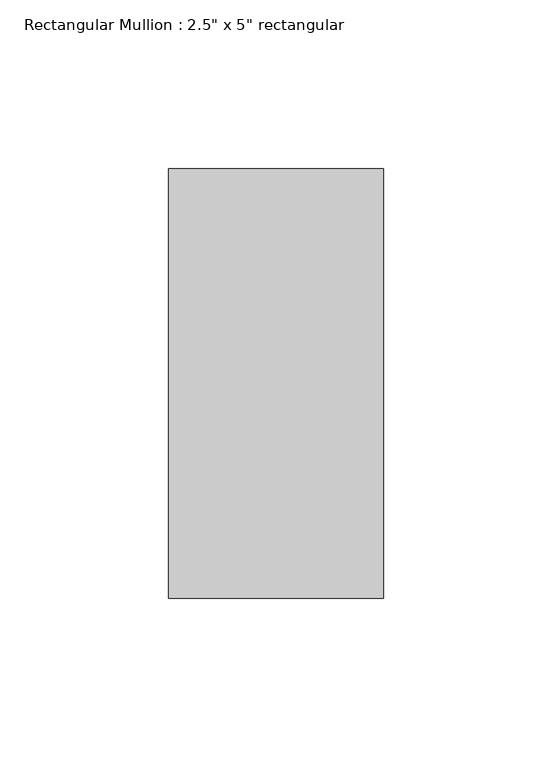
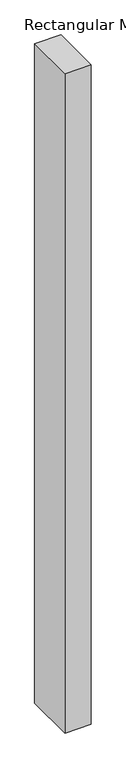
"""IFC4 building model written with IfcOpenShell, lengths in millimetres: member geometry."""

from ifc_helpers import new_model, si_unit, frame, origin, place, context, project, spatial, polyline, outline, extrude, source, transform, mapped, element, save


def member_515a5600(model_context):
    return source(origin(), model_context, "Body", "SweptSolid", [
        extrude(outline(polyline([(0.0, 63.5), (0.0, -63.5), (-63.5, -63.5), (-63.5, 63.5), (0.0, 63.5)])), frame((0.0, 0.0, -1695.45), z_axis=(0.0, 0.0, 1.0), x_axis=(1.0, 0.0, 0.0)), (0.0, 0.0, 1.0), 1695.45),
    ])


if __name__ == "__main__":
    model = new_model("IFC4")
    model_context = context("Model", 3, world=origin())
    ifc_project = project(units=[si_unit("LENGTHUNIT", "METRE", prefix="MILLI")], contexts=[model_context])
    site = spatial("IfcSite", under=ifc_project)
    building = spatial("IfcBuilding", under=site)
    placement = place(None, origin())
    member_shape = member_515a5600(model_context)
    element("IfcMember", 1, ObjectType="Rectangular Mullion : 2.5\" x 5\" rectangular", at=placement, inside=building, context=model_context, shape_type="MappedRepresentation", body=[
        mapped(member_shape, transform((0.0, 0.0, 0.0), x_axis=(1.0, 0.0, 0.0), y_axis=(0.0, 1.0, 0.0), z_axis=(0.0, 0.0, 1.0))),
    ])
    save(model, "model.ifc")
